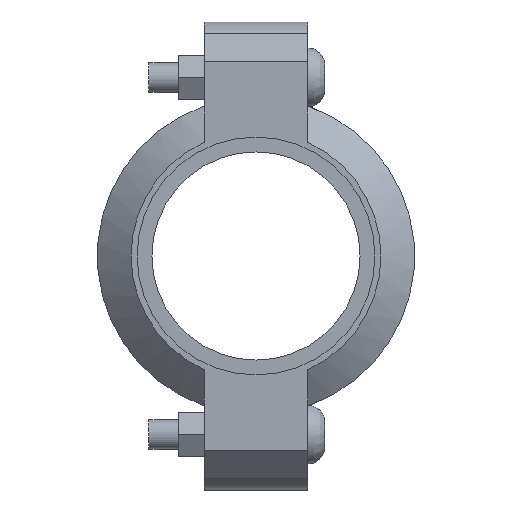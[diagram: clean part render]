
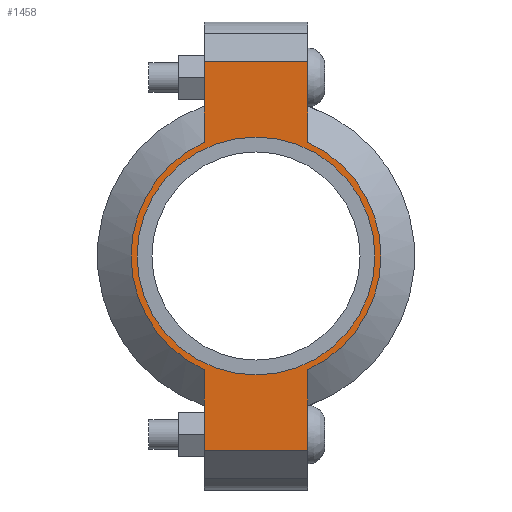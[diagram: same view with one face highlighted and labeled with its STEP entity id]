
A CAD part, left-side view. The second image highlights one B-rep face of the part: STEP entity #1458.
In plain terms, the highlighted planar face has unit normal (-1, 0, 0) as drawn and (0, 0, 1) by its records, which use the part's own axes.
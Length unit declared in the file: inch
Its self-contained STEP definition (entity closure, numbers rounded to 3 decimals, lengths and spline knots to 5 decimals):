
#120=LINE('',#2543,#213);
#133=LINE('',#2587,#226);
#138=LINE('',#2611,#231);
#145=LINE('',#2629,#238);
#152=LINE('',#2654,#245);
#153=LINE('',#2657,#246);
#213=VECTOR('',#2039,0.3937);
#226=VECTOR('',#2068,0.3937);
#231=VECTOR('',#2079,0.3937);
#238=VECTOR('',#2096,0.3937);
#245=VECTOR('',#2117,0.3937);
#246=VECTOR('',#2122,0.3937);
#294=FACE_BOUND('',#454,.T.);
#359=FACE_OUTER_BOUND('',#453,.T.);
#453=EDGE_LOOP('',(#1207,#1208,#1209,#1210,#1211,#1212,#1213,#1214));
#454=EDGE_LOOP('',(#1215));
#550=CIRCLE('',#1721,1.575);
#551=CIRCLE('',#1722,1.575);
#552=CIRCLE('',#1723,1.5);
#653=VERTEX_POINT('',#2538);
#654=VERTEX_POINT('',#2542);
#670=VERTEX_POINT('',#2584);
#671=VERTEX_POINT('',#2586);
#677=VERTEX_POINT('',#2606);
#678=VERTEX_POINT('',#2610);
#683=VERTEX_POINT('',#2626);
#684=VERTEX_POINT('',#2628);
#690=VERTEX_POINT('',#2659);
#820=EDGE_CURVE('',#654,#653,#120,.T.);
#840=EDGE_CURVE('',#671,#670,#133,.T.);
#849=EDGE_CURVE('',#678,#677,#138,.T.);
#858=EDGE_CURVE('',#684,#683,#145,.T.);
#870=EDGE_CURVE('',#678,#670,#152,.T.);
#871=EDGE_CURVE('',#677,#684,#550,.T.);
#872=EDGE_CURVE('',#654,#683,#153,.T.);
#873=EDGE_CURVE('',#653,#671,#551,.T.);
#874=EDGE_CURVE('',#690,#690,#552,.T.);
#1207=ORIENTED_EDGE('',*,*,#870,.F.);
#1208=ORIENTED_EDGE('',*,*,#849,.T.);
#1209=ORIENTED_EDGE('',*,*,#871,.T.);
#1210=ORIENTED_EDGE('',*,*,#858,.T.);
#1211=ORIENTED_EDGE('',*,*,#872,.F.);
#1212=ORIENTED_EDGE('',*,*,#820,.T.);
#1213=ORIENTED_EDGE('',*,*,#873,.T.);
#1214=ORIENTED_EDGE('',*,*,#840,.T.);
#1215=ORIENTED_EDGE('',*,*,#874,.T.);
#1311=PLANE('',#1720);
#1458=ADVANCED_FACE('',(#359,#294),#1311,.T.);
#1720=AXIS2_PLACEMENT_3D('',#2655,#2118,#2119);
#1721=AXIS2_PLACEMENT_3D('',#2656,#2120,#2121);
#1722=AXIS2_PLACEMENT_3D('',#2658,#2123,#2124);
#1723=AXIS2_PLACEMENT_3D('',#2660,#2125,#2126);
#2039=DIRECTION('',(1.,0.,0.));
#2068=DIRECTION('',(1.,0.,0.));
#2079=DIRECTION('',(-1.,0.,0.));
#2096=DIRECTION('',(-1.,0.,0.));
#2117=DIRECTION('',(0.,-1.,0.));
#2118=DIRECTION('center_axis',(0.,0.,1.));
#2119=DIRECTION('ref_axis',(-1.,0.,0.));
#2120=DIRECTION('center_axis',(0.,0.,1.));
#2121=DIRECTION('ref_axis',(1.,0.,0.));
#2122=DIRECTION('',(0.,1.,0.));
#2123=DIRECTION('center_axis',(0.,0.,1.));
#2124=DIRECTION('ref_axis',(1.,0.,0.));
#2125=DIRECTION('center_axis',(0.,0.,-1.));
#2126=DIRECTION('ref_axis',(1.,0.,0.));
#2538=CARTESIAN_POINT('',(-1.43462,-0.65,0.94));
#2542=CARTESIAN_POINT('',(-2.45,-0.65,0.94));
#2543=CARTESIAN_POINT('',(2.95,-0.65,0.94));
#2584=CARTESIAN_POINT('',(2.45,-0.65,0.94));
#2586=CARTESIAN_POINT('',(1.43462,-0.65,0.94));
#2587=CARTESIAN_POINT('',(2.95,-0.65,0.94));
#2606=CARTESIAN_POINT('',(1.43462,0.65,0.94));
#2610=CARTESIAN_POINT('',(2.45,0.65,0.94));
#2611=CARTESIAN_POINT('',(-2.95,0.65,0.94));
#2626=CARTESIAN_POINT('',(-2.45,0.65,0.94));
#2628=CARTESIAN_POINT('',(-1.43462,0.65,0.94));
#2629=CARTESIAN_POINT('',(-2.95,0.65,0.94));
#2654=CARTESIAN_POINT('',(2.45,-0.325,0.94));
#2655=CARTESIAN_POINT('Origin',(0.,0.,
0.94));
#2656=CARTESIAN_POINT('Origin',(0.,0.,0.94));
#2657=CARTESIAN_POINT('',(-2.45,0.325,0.94));
#2658=CARTESIAN_POINT('Origin',(0.,0.,0.94));
#2659=CARTESIAN_POINT('',(-1.5,0.,0.94));
#2660=CARTESIAN_POINT('Origin',(0.,0.,0.94));
